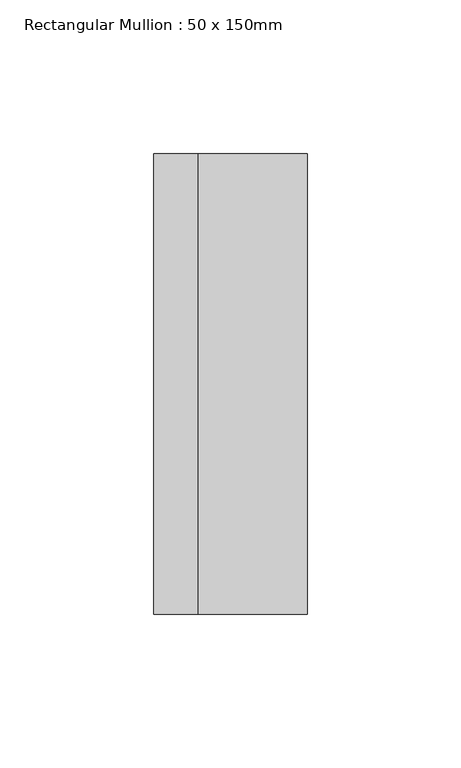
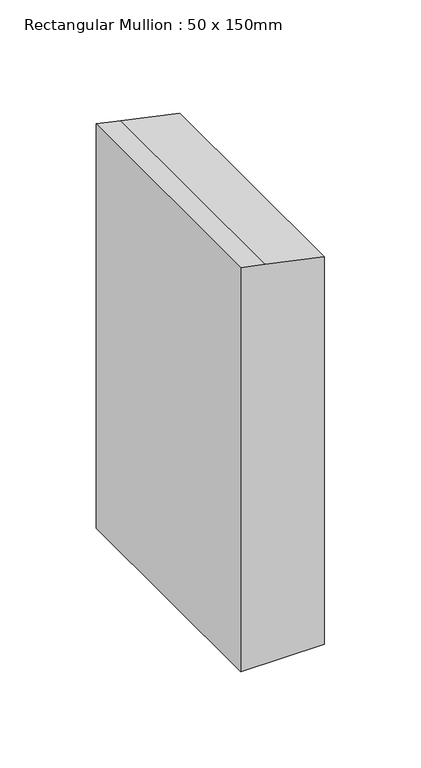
"""IFC4 building model written with IfcOpenShell, lengths in millimetres: member geometry, Rectangular Mullion : 50 x 150mm."""

from ifc_helpers import new_model, si_unit, frame, origin, place, context, project, spatial, polyline, outline, extrude, source, transform, mapped, element, save


def rectangular_mullion_50_x_150mm_e71b960d(model_context):
    return source(origin(), model_context, "Body", "SweptSolid", [
        extrude(outline(polyline([(-56.4764416, 25.0), (-48.8945724, -10.4556584), (-45.7843976, -25.0), (-301.8840087, -25.0), (-301.8840087, 25.0), (-56.4764416, 25.0)])), frame((0.0, -75.0, 0.0), z_axis=(0.0, 1.0, 0.0), x_axis=(0.0, 0.0, 1.0)), (0.0, 0.0, 1.0), 150.0),
    ])


if __name__ == "__main__":
    model = new_model("IFC4")
    model_context = context("Model", 3, world=origin())
    ifc_project = project(units=[si_unit("LENGTHUNIT", "METRE", prefix="MILLI")], contexts=[model_context])
    site = spatial("IfcSite", under=ifc_project)
    building = spatial("IfcBuilding", under=site)
    placement = place(None, origin())
    rectangular_mullion_50_x_150mm_shape = rectangular_mullion_50_x_150mm_e71b960d(model_context)
    element("IfcMember", 1, ObjectType="Rectangular Mullion : 50 x 150mm", at=placement, inside=building, context=model_context, shape_type="MappedRepresentation", body=[
        mapped(rectangular_mullion_50_x_150mm_shape, transform((0.0, 0.0, 0.0), x_axis=(1.0, 0.0, 0.0), y_axis=(0.0, 1.0, 0.0), z_axis=(0.0, 0.0, 1.0))),
    ])
    save(model, "model.ifc")
